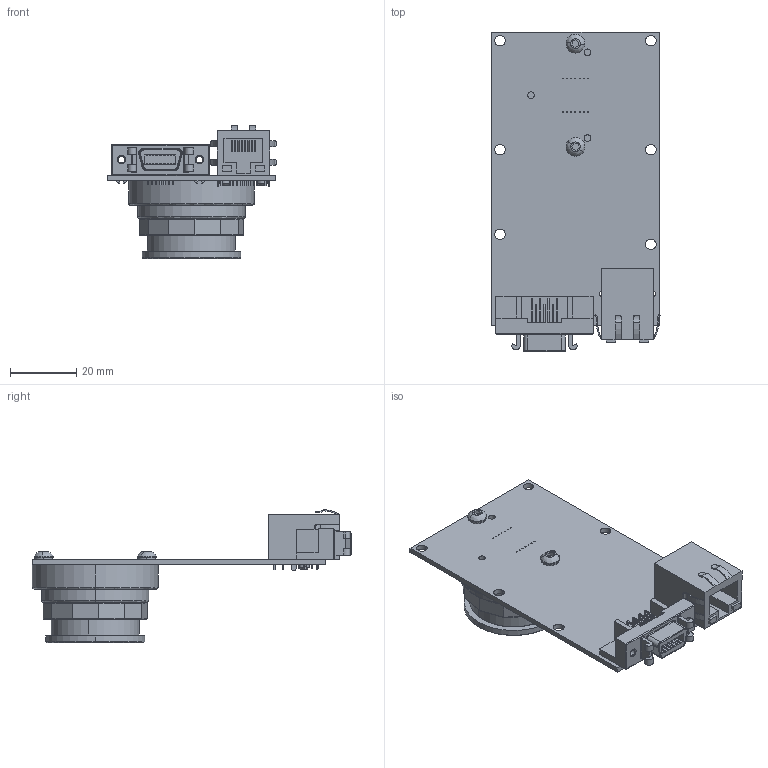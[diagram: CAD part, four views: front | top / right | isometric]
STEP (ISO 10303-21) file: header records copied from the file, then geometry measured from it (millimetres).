
FILE_DESCRIPTION (( 'STEP AP214' ), '1' );
FILE_NAME ('GB660C.STEP', '2013-07-31T22:41:54', ( '' ), ( '' ), 'SwSTEP 2.0', 'SolidWorks 2013', '' );
FILE_SCHEMA (( 'AUTOMOTIVE_DESIGN' ));
Length unit declared in the file: millimetre
Products named in the file (19): 110054AB-IR FILTER SUPPORT; 440002-IR CUT FILTER 22MM DIA; 100097A-IR FILTER ASSEMBLY 0.75 INCH; 110094A-GB CCD GASKET; 140027-SCREW BUTTON M3x6 SS; 110078A-GB MOUNT; 140008-washer spring lock #4; 110003AC-CV CMOUNT RING; 220120-SONY ICX618AQA; SONY ICX618 BODY; SONY ICX618 WINDOW; 140004-LOW COST C-MOUNT CAP; 110031A-B EC-CCD LOCKING RING; 200087B-GB660-LS-RA; 200084B-GB660-LS; 210046B-GB1380-650-LS; 260036-HALO HFJ11-1G16E-L12RL; 260039-3M 10214-55G3PC; GB660C
Assembly tree (20 placements, depth 4):
  GB660C
    200087B-GB660-LS-RA
      260039-3M 10214-55G3PC
      260036-HALO HFJ11-1G16E-L12RL
      200084B-GB660-LS
        210046B-GB1380-650-LS
    110031A-B EC-CCD LOCKING RING
    140004-LOW COST C-MOUNT CAP
    220120-SONY ICX618AQA
      SONY ICX618 WINDOW
      SONY ICX618 BODY
    110003AC-CV CMOUNT RING
    140008-washer spring lock #4  x2
    110078A-GB MOUNT
    140027-SCREW BUTTON M3x6 SS  x2
    110094A-GB CCD GASKET
    100097A-IR FILTER ASSEMBLY 0.75 INCH
      440002-IR CUT FILTER 22MM DIA
      110054AB-IR FILTER SUPPORT
Bounding box: 51.12 x 96.77 x 40.34 mm (x, y, z)
Volume: 21903.3 mm3; surface area: 29974 mm2
Topology: 16 solids, 16 shells, 1375 faces, 3566 edges, 2273 vertices
Faces by surface type: plane 807, cylinder 348, cone 194, bspline 26
Entity records: 58106 total; most frequent: CARTESIAN_POINT 8785, ORIENTED_EDGE 7004, DIRECTION 7001, EDGE_CURVE 3502, VECTOR 2531, LINE 2531, VERTEX_POINT 2237, AXIS2_PLACEMENT_3D 2235
